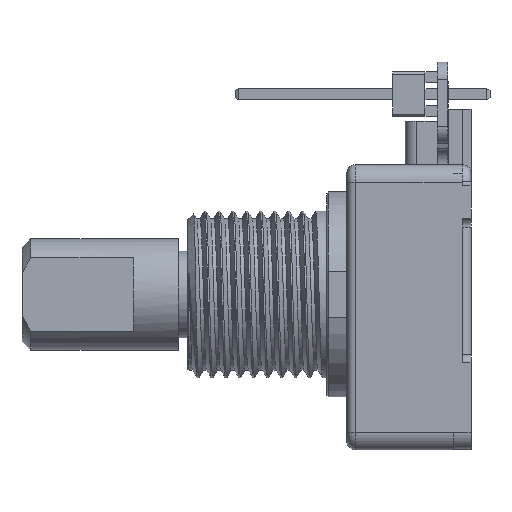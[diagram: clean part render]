
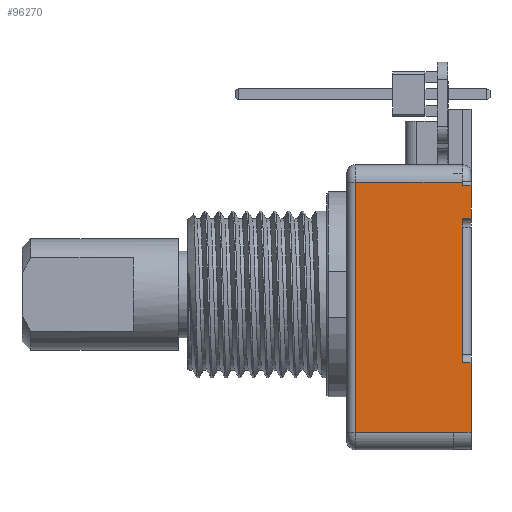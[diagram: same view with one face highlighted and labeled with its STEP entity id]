
A CAD part, left-side view. The second image highlights one B-rep face of the part: STEP entity #96270.
In plain terms, the highlighted planar face has unit normal (-1, 0, 0).
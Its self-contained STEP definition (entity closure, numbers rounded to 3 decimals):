
#15820=CARTESIAN_POINT('',(-6.2,-6.1,-7.87));
#15830=VERTEX_POINT('',#15820);
#15860=CARTESIAN_POINT('',(-5.2,-6.1,-7.85));
#15870=DIRECTION('',(0.,1.,0.));
#15880=DIRECTION('',(0.,0.,1.));
#15890=AXIS2_PLACEMENT_3D('',#15860,#15870,#15880);
#15900=CIRCLE('',#15890,1.);
#68380=CARTESIAN_POINT('',(-6.2,-0.5,-7.87));
#68390=VERTEX_POINT('',#68380);
#68420=CARTESIAN_POINT('',(-6.2,-6.1,-7.87));
#68430=DIRECTION('',(0.,1.,0.));
#68440=VECTOR('',#68430,1.);
#68450=LINE('',#68420,#68440);
#68460=EDGE_CURVE('',#15830,#68390,#68450,.T.);
#68710=CARTESIAN_POINT('',(-6.2,-6.6,-3.4));
#68720=VERTEX_POINT('',#68710);
#68750=CARTESIAN_POINT('',(-6.2,-6.6,3.85));
#68760=DIRECTION('',(0.,0.,-1.));
#68770=VECTOR('',#68760,1.);
#68780=LINE('',#68750,#68770);
#68790=CARTESIAN_POINT('',(-6.2,-6.6,3.85));
#68800=VERTEX_POINT('',#68790);
#68810=EDGE_CURVE('',#68800,#68720,#68780,.T.);
#95300=CARTESIAN_POINT('',(-6.2,-6.1,-7.87));
#95310=DIRECTION('',(-1.,0.,0.));
#95320=DIRECTION('',(0.,0.,1.));
#95330=AXIS2_PLACEMENT_3D('',#95300,#95310,#95320);
#95340=PLANE('',#95330);
#95350=CARTESIAN_POINT('',(-6.2,-6.6,-3.9));
#95360=DIRECTION('',(0.,0.,1.));
#95370=VECTOR('',#95360,1.);
#95380=LINE('',#95350,#95370);
#95390=CARTESIAN_POINT('',(-6.2,-6.6,-3.9));
#95400=VERTEX_POINT('',#95390);
#95410=EDGE_CURVE('',#95400,#68720,#95380,.T.);
#95420=ORIENTED_EDGE('',*,*,#95410,.T.);
#95430=CARTESIAN_POINT('',(-6.2,-7.1,-3.9));
#95440=DIRECTION('',(0.,1.,0.));
#95450=VECTOR('',#95440,1.);
#95460=LINE('',#95430,#95450);
#95470=CARTESIAN_POINT('',(-6.2,-7.1,-3.9));
#95480=VERTEX_POINT('',#95470);
#95490=EDGE_CURVE('',#95480,#95400,#95460,.T.);
#95500=ORIENTED_EDGE('',*,*,#95490,.T.);
#95510=CARTESIAN_POINT('',(-6.2,-7.1,-3.9));
#95520=DIRECTION('',(0.,0.,-1.));
#95530=VECTOR('',#95520,1.);
#95540=LINE('',#95510,#95530);
#95550=CARTESIAN_POINT('',(-6.2,-7.1,-7.85));
#95560=VERTEX_POINT('',#95550);
#95570=EDGE_CURVE('',#95480,#95560,#95540,.T.);
#95580=ORIENTED_EDGE('',*,*,#95570,.F.);
#95590=CARTESIAN_POINT('',(-6.2,-7.1,-7.85));
#95600=DIRECTION('',(0.,1.,0.));
#95610=VECTOR('',#95600,1.);
#95620=LINE('',#95590,#95610);
#95630=CARTESIAN_POINT('',(-6.2,-6.1,-7.85));
#95640=VERTEX_POINT('',#95630);
#95650=EDGE_CURVE('',#95560,#95640,#95620,.T.);
#95660=ORIENTED_EDGE('',*,*,#95650,.F.);
#95670=EDGE_CURVE('',#15830,#95640,#15900,.T.);
#95680=ORIENTED_EDGE('',*,*,#95670,.T.);
#95690=ORIENTED_EDGE('',*,*,#68460,.F.);
#95700=CARTESIAN_POINT('',(-6.2,-0.5,-7.87));
#95710=DIRECTION('',(0.,0.,1.));
#95720=VECTOR('',#95710,1.);
#95730=LINE('',#95700,#95720);
#95740=CARTESIAN_POINT('',(-6.2,-0.5,6.4));
#95750=VERTEX_POINT('',#95740);
#95760=EDGE_CURVE('',#68390,#95750,#95730,.T.);
#95770=ORIENTED_EDGE('',*,*,#95760,.F.);
#95780=CARTESIAN_POINT('',(-6.2,-0.5,6.4));
#95790=DIRECTION('',(0.,-1.,0.));
#95800=VECTOR('',#95790,1.);
#95810=LINE('',#95780,#95800);
#95820=CARTESIAN_POINT('',(-6.2,-6.6,6.4));
#95830=VERTEX_POINT('',#95820);
#95840=EDGE_CURVE('',#95750,#95830,#95810,.T.);
#95850=ORIENTED_EDGE('',*,*,#95840,.F.);
#95860=CARTESIAN_POINT('',(-6.2,-6.6,6.225));
#95870=DIRECTION('',(0.,0.,1.));
#95880=VECTOR('',#95870,1.);
#95890=LINE('',#95860,#95880);
#95900=CARTESIAN_POINT('',(-6.2,-6.6,6.225));
#95910=VERTEX_POINT('',#95900);
#95920=EDGE_CURVE('',#95910,#95830,#95890,.T.);
#95930=ORIENTED_EDGE('',*,*,#95920,.T.);
#95940=CARTESIAN_POINT('',(-6.2,-7.1,6.225));
#95950=DIRECTION('',(0.,1.,0.));
#95960=VECTOR('',#95950,1.);
#95970=LINE('',#95940,#95960);
#95980=CARTESIAN_POINT('',(-6.2,-7.1,6.225));
#95990=VERTEX_POINT('',#95980);
#96000=EDGE_CURVE('',#95990,#95910,#95970,.T.);
#96010=ORIENTED_EDGE('',*,*,#96000,.T.);
#96020=CARTESIAN_POINT('',(-6.2,-7.1,6.225));
#96030=DIRECTION('',(0.,0.,-1.));
#96040=VECTOR('',#96030,1.);
#96050=LINE('',#96020,#96040);
#96060=CARTESIAN_POINT('',(-6.2,-7.1,4.35));
#96070=VERTEX_POINT('',#96060);
#96080=EDGE_CURVE('',#95990,#96070,#96050,.T.);
#96090=ORIENTED_EDGE('',*,*,#96080,.F.);
#96100=CARTESIAN_POINT('',(-6.2,-7.1,4.35));
#96110=DIRECTION('',(0.,1.,0.));
#96120=VECTOR('',#96110,1.);
#96130=LINE('',#96100,#96120);
#96140=CARTESIAN_POINT('',(-6.2,-6.6,4.35));
#96150=VERTEX_POINT('',#96140);
#96160=EDGE_CURVE('',#96070,#96150,#96130,.T.);
#96170=ORIENTED_EDGE('',*,*,#96160,.F.);
#96180=CARTESIAN_POINT('',(-6.2,-6.6,3.85));
#96190=DIRECTION('',(0.,0.,1.));
#96200=VECTOR('',#96190,1.);
#96210=LINE('',#96180,#96200);
#96220=EDGE_CURVE('',#68800,#96150,#96210,.T.);
#96230=ORIENTED_EDGE('',*,*,#96220,.T.);
#96240=ORIENTED_EDGE('',*,*,#68810,.F.);
#96250=EDGE_LOOP('',(#96240,#96230,#96170,#96090,#96010,#95930,#95850,
#95770,#95690,#95680,#95660,#95580,#95500,#95420));
#96260=FACE_OUTER_BOUND('',#96250,.T.);
#96270=ADVANCED_FACE('',(#96260),#95340,.T.);
